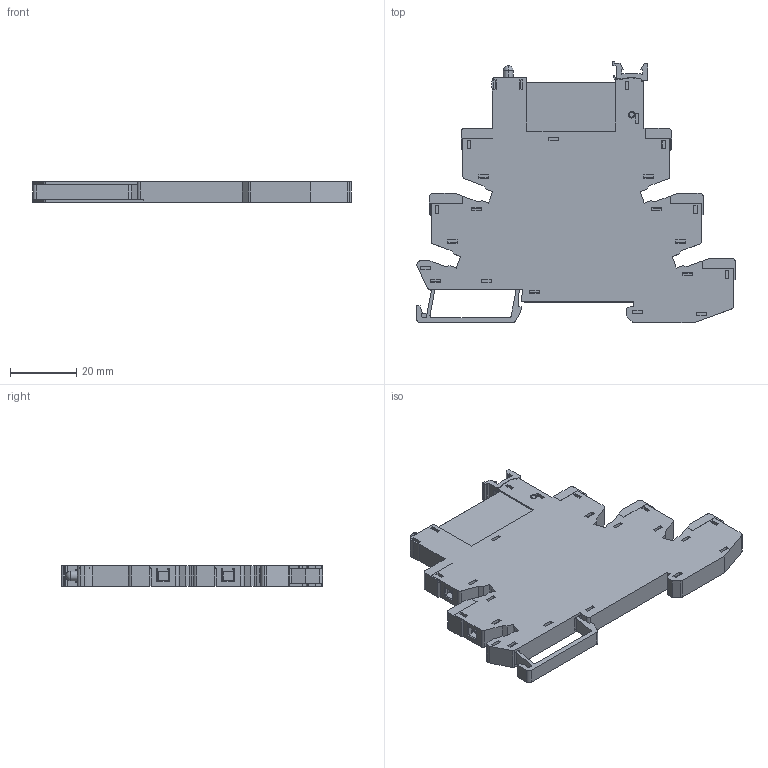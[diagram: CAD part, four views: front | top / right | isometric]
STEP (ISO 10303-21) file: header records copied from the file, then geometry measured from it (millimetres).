
FILE_DESCRIPTION (( 'STEP AP203' ), '1' );
FILE_NAME ('SNC05-E +RNC 俋倛.STEP', '2022-12-30T05:58:41', ( '' ), ( '' ), 'SwSTEP 2.0', 'SolidWorks 2018', '' );
FILE_SCHEMA (( 'CONFIG_CONTROL_DESIGN' ));
Products named in the file (1): SNC05-E +RNC 俋倛
Bounding box: 96 x 78.71 x 6.2 mm (x, y, z)
Volume: 27168.2 mm3; surface area: 18380.7 mm2
Topology: 1 solids, 1 shells, 2137 faces, 5951 edges, 3877 vertices
Faces by surface type: plane 1651, cylinder 398, cone 30, torus 29, bspline 27, sphere 2
Entity records: 88239 total; most frequent: CARTESIAN_POINT 33681, ORIENTED_EDGE 11896, DIRECTION 10417, EDGE_CURVE 5948, VECTOR 4753, LINE 4753, VERTEX_POINT 3876, AXIS2_PLACEMENT_3D 2832
